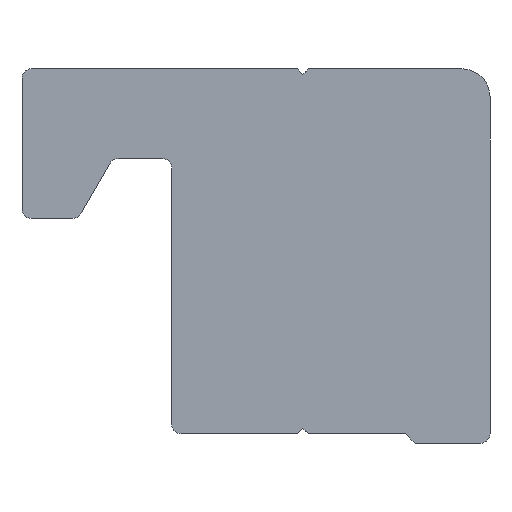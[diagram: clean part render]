
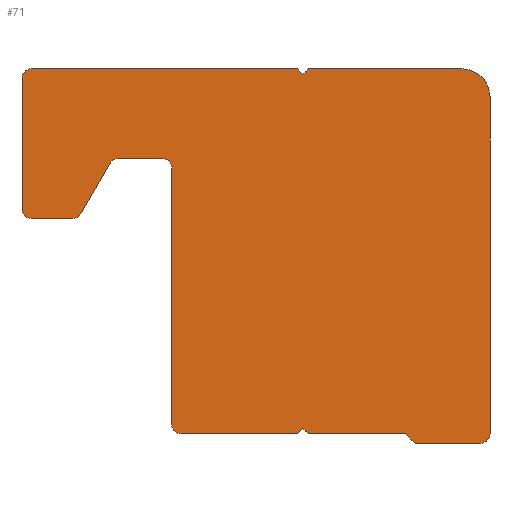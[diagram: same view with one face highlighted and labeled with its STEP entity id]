
A CAD part, front view. The second image highlights one B-rep face of the part: STEP entity #71.
In plain terms, the highlighted planar face has unit normal (0, -1, 0).
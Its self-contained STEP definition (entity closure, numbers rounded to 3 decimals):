
#71=ADVANCED_FACE('',(#182),#183,.T.);
#182=FACE_OUTER_BOUND('',#339,.T.);
#183=PLANE('',#340);
#339=EDGE_LOOP('',(#490,#491,#492,#493,#494,#495,#496,#497,#498,#499,#500,#501,#502,#503,#504,#505,#506,#507,#508,#509,#510,#511,#512,#513));
#340=AXIS2_PLACEMENT_3D('',#514,#515,#516);
#490=ORIENTED_EDGE('',*,*,#942,.T.);
#491=ORIENTED_EDGE('',*,*,#943,.T.);
#492=ORIENTED_EDGE('',*,*,#944,.T.);
#493=ORIENTED_EDGE('',*,*,#945,.T.);
#494=ORIENTED_EDGE('',*,*,#946,.T.);
#495=ORIENTED_EDGE('',*,*,#947,.T.);
#496=ORIENTED_EDGE('',*,*,#948,.T.);
#497=ORIENTED_EDGE('',*,*,#949,.T.);
#498=ORIENTED_EDGE('',*,*,#950,.T.);
#499=ORIENTED_EDGE('',*,*,#951,.T.);
#500=ORIENTED_EDGE('',*,*,#952,.T.);
#501=ORIENTED_EDGE('',*,*,#953,.T.);
#502=ORIENTED_EDGE('',*,*,#954,.T.);
#503=ORIENTED_EDGE('',*,*,#955,.T.);
#504=ORIENTED_EDGE('',*,*,#956,.T.);
#505=ORIENTED_EDGE('',*,*,#957,.T.);
#506=ORIENTED_EDGE('',*,*,#958,.T.);
#507=ORIENTED_EDGE('',*,*,#959,.T.);
#508=ORIENTED_EDGE('',*,*,#960,.T.);
#509=ORIENTED_EDGE('',*,*,#961,.T.);
#510=ORIENTED_EDGE('',*,*,#962,.T.);
#511=ORIENTED_EDGE('',*,*,#963,.T.);
#512=ORIENTED_EDGE('',*,*,#964,.T.);
#513=ORIENTED_EDGE('',*,*,#965,.T.);
#514=CARTESIAN_POINT('',(0.5,0.,-14.2));
#515=DIRECTION('',(0.0,-1.0,0.0));
#516=DIRECTION('',(1.0,0.0,0.0));
#942=EDGE_CURVE('',#1121,#1122,#1123,.T.);
#943=EDGE_CURVE('',#1122,#1124,#1125,.T.);
#944=EDGE_CURVE('',#1124,#1126,#1127,.T.);
#945=EDGE_CURVE('',#1126,#1128,#1129,.T.);
#946=EDGE_CURVE('',#1128,#1130,#1131,.T.);
#947=EDGE_CURVE('',#1130,#1132,#1133,.T.);
#948=EDGE_CURVE('',#1132,#1134,#1135,.T.);
#949=EDGE_CURVE('',#1134,#1136,#1137,.T.);
#950=EDGE_CURVE('',#1136,#1138,#1139,.T.);
#951=EDGE_CURVE('',#1138,#1140,#1141,.T.);
#952=EDGE_CURVE('',#1140,#1142,#1143,.T.);
#953=EDGE_CURVE('',#1142,#1144,#1145,.T.);
#954=EDGE_CURVE('',#1144,#1146,#1147,.T.);
#955=EDGE_CURVE('',#1146,#1148,#1149,.T.);
#956=EDGE_CURVE('',#1148,#1150,#1151,.T.);
#957=EDGE_CURVE('',#1150,#1152,#1153,.T.);
#958=EDGE_CURVE('',#1152,#1154,#1155,.T.);
#959=EDGE_CURVE('',#1154,#1156,#1157,.T.);
#960=EDGE_CURVE('',#1156,#1158,#1159,.T.);
#961=EDGE_CURVE('',#1158,#1160,#1161,.T.);
#962=EDGE_CURVE('',#1160,#1162,#1163,.T.);
#963=EDGE_CURVE('',#1162,#1164,#1165,.T.);
#964=EDGE_CURVE('',#1164,#1166,#1167,.T.);
#965=EDGE_CURVE('',#1166,#1121,#1168,.T.);
#1121=VERTEX_POINT('',#1390);
#1122=VERTEX_POINT('',#1391);
#1123=CIRCLE('',#1392,0.5);
#1124=VERTEX_POINT('',#1393);
#1125=LINE('',#1394,#1395);
#1126=VERTEX_POINT('',#1396);
#1127=LINE('',#1397,#1398);
#1128=VERTEX_POINT('',#1399);
#1129=LINE('',#1400,#1401);
#1130=VERTEX_POINT('',#1402);
#1131=LINE('',#1403,#1404);
#1132=VERTEX_POINT('',#1405);
#1133=LINE('',#1406,#1407);
#1134=VERTEX_POINT('',#1408);
#1135=LINE('',#1409,#1410);
#1136=VERTEX_POINT('',#1411);
#1137=CIRCLE('',#1412,0.5);
#1138=VERTEX_POINT('',#1413);
#1139=LINE('',#1414,#1415);
#1140=VERTEX_POINT('',#1416);
#1141=CIRCLE('',#1417,1.5);
#1142=VERTEX_POINT('',#1418);
#1143=LINE('',#1419,#1420);
#1144=VERTEX_POINT('',#1421);
#1145=LINE('',#1422,#1423);
#1146=VERTEX_POINT('',#1424);
#1147=LINE('',#1425,#1426);
#1148=VERTEX_POINT('',#1427);
#1149=LINE('',#1428,#1429);
#1150=VERTEX_POINT('',#1430);
#1151=CIRCLE('',#1431,0.5);
#1152=VERTEX_POINT('',#1432);
#1153=LINE('',#1433,#1434);
#1154=VERTEX_POINT('',#1435);
#1155=CIRCLE('',#1436,0.5);
#1156=VERTEX_POINT('',#1437);
#1157=LINE('',#1438,#1439);
#1158=VERTEX_POINT('',#1440);
#1159=CIRCLE('',#1441,0.5);
#1160=VERTEX_POINT('',#1442);
#1161=LINE('',#1443,#1444);
#1162=VERTEX_POINT('',#1445);
#1163=CIRCLE('',#1446,0.5);
#1164=VERTEX_POINT('',#1447);
#1165=LINE('',#1448,#1449);
#1166=VERTEX_POINT('',#1450);
#1167=CIRCLE('',#1451,0.5);
#1168=LINE('',#1452,#1453);
#1390=CARTESIAN_POINT('',(0.,0.,-14.2));
#1391=CARTESIAN_POINT('',(0.5,0.,-14.7));
#1392=AXIS2_PLACEMENT_3D('',#1732,#1733,#1734);
#1393=CARTESIAN_POINT('',(6.7,0.,-14.7));
#1394=CARTESIAN_POINT('',(0.5,0.,-14.7));
#1395=VECTOR('',#1735,1.0);
#1396=CARTESIAN_POINT('',(7.,0.,-14.4));
#1397=CARTESIAN_POINT('',(6.7,0.,-14.7));
#1398=VECTOR('',#1736,1.0);
#1399=CARTESIAN_POINT('',(7.3,0.,-14.7));
#1400=CARTESIAN_POINT('',(7.,0.,-14.4));
#1401=VECTOR('',#1737,1.0);
#1402=CARTESIAN_POINT('',(12.5,0.,-14.7));
#1403=CARTESIAN_POINT('',(7.3,0.,-14.7));
#1404=VECTOR('',#1738,1.0);
#1405=CARTESIAN_POINT('',(13.,0.,-15.2));
#1406=CARTESIAN_POINT('',(12.5,0.,-14.7));
#1407=VECTOR('',#1739,1.0);
#1408=CARTESIAN_POINT('',(16.5,0.,-15.2));
#1409=CARTESIAN_POINT('',(13.,0.,-15.2));
#1410=VECTOR('',#1740,1.0);
#1411=CARTESIAN_POINT('',(17.,0.,-14.7));
#1412=AXIS2_PLACEMENT_3D('',#1741,#1742,#1743);
#1413=CARTESIAN_POINT('',(17.,0.,3.3));
#1414=CARTESIAN_POINT('',(17.,0.,-14.7));
#1415=VECTOR('',#1744,1.0);
#1416=CARTESIAN_POINT('',(15.5,0.,4.8));
#1417=AXIS2_PLACEMENT_3D('',#1745,#1746,#1747);
#1418=CARTESIAN_POINT('',(7.3,0.,4.8));
#1419=CARTESIAN_POINT('',(15.5,0.,4.8));
#1420=VECTOR('',#1748,1.0);
#1421=CARTESIAN_POINT('',(7.,0.,4.5));
#1422=CARTESIAN_POINT('',(7.3,0.,4.8));
#1423=VECTOR('',#1749,1.0);
#1424=CARTESIAN_POINT('',(6.7,0.,4.8));
#1425=CARTESIAN_POINT('',(7.,0.,4.5));
#1426=VECTOR('',#1750,1.0);
#1427=CARTESIAN_POINT('',(-7.5,0.,4.8));
#1428=CARTESIAN_POINT('',(6.7,0.,4.8));
#1429=VECTOR('',#1751,1.0);
#1430=CARTESIAN_POINT('',(-8.,0.,4.3));
#1431=AXIS2_PLACEMENT_3D('',#1752,#1753,#1754);
#1432=CARTESIAN_POINT('',(-8.,0.,-2.7));
#1433=CARTESIAN_POINT('',(-8.,0.,4.3));
#1434=VECTOR('',#1755,1.0);
#1435=CARTESIAN_POINT('',(-7.5,0.,-3.2));
#1436=AXIS2_PLACEMENT_3D('',#1756,#1757,#1758);
#1437=CARTESIAN_POINT('',(-5.289,0.,-3.2));
#1438=CARTESIAN_POINT('',(-7.5,0.,-3.2));
#1439=VECTOR('',#1759,1.0);
#1440=CARTESIAN_POINT('',(-4.856,0.,-2.95));
#1441=AXIS2_PLACEMENT_3D('',#1760,#1761,#1762);
#1442=CARTESIAN_POINT('',(-3.297,0.,-0.25));
#1443=CARTESIAN_POINT('',(-4.856,0.,-2.95));
#1444=VECTOR('',#1763,1.0);
#1445=CARTESIAN_POINT('',(-2.864,0.,0.));
#1446=AXIS2_PLACEMENT_3D('',#1764,#1765,#1766);
#1447=CARTESIAN_POINT('',(-0.5,0.,0.));
#1448=CARTESIAN_POINT('',(-2.864,0.,0.));
#1449=VECTOR('',#1767,1.0);
#1450=CARTESIAN_POINT('',(0.,0.,-0.5));
#1451=AXIS2_PLACEMENT_3D('',#1768,#1769,#1770);
#1452=CARTESIAN_POINT('',(0.,0.,-0.5));
#1453=VECTOR('',#1771,1.0);
#1732=CARTESIAN_POINT('',(0.5,0.,-14.2));
#1733=DIRECTION('',(0.0,-1.0,0.0));
#1734=DIRECTION('',(1.0,0.0,0.0));
#1735=DIRECTION('',(1.0,0.0,0.0));
#1736=DIRECTION('',(0.707,0.0,0.707));
#1737=DIRECTION('',(0.707,0.0,-0.707));
#1738=DIRECTION('',(1.0,0.0,0.0));
#1739=DIRECTION('',(0.707,0.0,-0.707));
#1740=DIRECTION('',(1.0,0.0,0.0));
#1741=CARTESIAN_POINT('',(16.5,0.,-14.7));
#1742=DIRECTION('',(0.0,-1.0,0.0));
#1743=DIRECTION('',(1.0,0.0,0.0));
#1744=DIRECTION('',(0.0,0.0,1.0));
#1745=CARTESIAN_POINT('',(15.5,0.,3.3));
#1746=DIRECTION('',(0.0,-1.0,0.0));
#1747=DIRECTION('',(1.0,0.0,0.0));
#1748=DIRECTION('',(-1.0,0.0,0.0));
#1749=DIRECTION('',(-0.707,0.0,-0.707));
#1750=DIRECTION('',(-0.707,0.0,0.707));
#1751=DIRECTION('',(-1.0,0.0,0.0));
#1752=CARTESIAN_POINT('',(-7.5,0.,4.3));
#1753=DIRECTION('',(0.0,-1.0,0.0));
#1754=DIRECTION('',(1.0,0.0,0.0));
#1755=DIRECTION('',(0.0,0.0,-1.0));
#1756=CARTESIAN_POINT('',(-7.5,0.,-2.7));
#1757=DIRECTION('',(0.0,-1.0,0.0));
#1758=DIRECTION('',(1.0,0.0,0.0));
#1759=DIRECTION('',(1.0,0.0,0.0));
#1760=CARTESIAN_POINT('',(-5.289,0.,-2.7));
#1761=DIRECTION('',(0.0,-1.0,0.0));
#1762=DIRECTION('',(1.0,0.0,0.0));
#1763=DIRECTION('',(0.5,0.0,0.866));
#1764=CARTESIAN_POINT('',(-2.864,0.,-0.5));
#1765=DIRECTION('',(0.0,1.0,0.0));
#1766=DIRECTION('',(-1.0,0.0,0.0));
#1767=DIRECTION('',(1.0,0.0,0.0));
#1768=CARTESIAN_POINT('',(-0.5,0.,-0.5));
#1769=DIRECTION('',(0.0,1.0,0.0));
#1770=DIRECTION('',(-1.0,0.0,0.0));
#1771=DIRECTION('',(0.0,0.0,-1.0));
